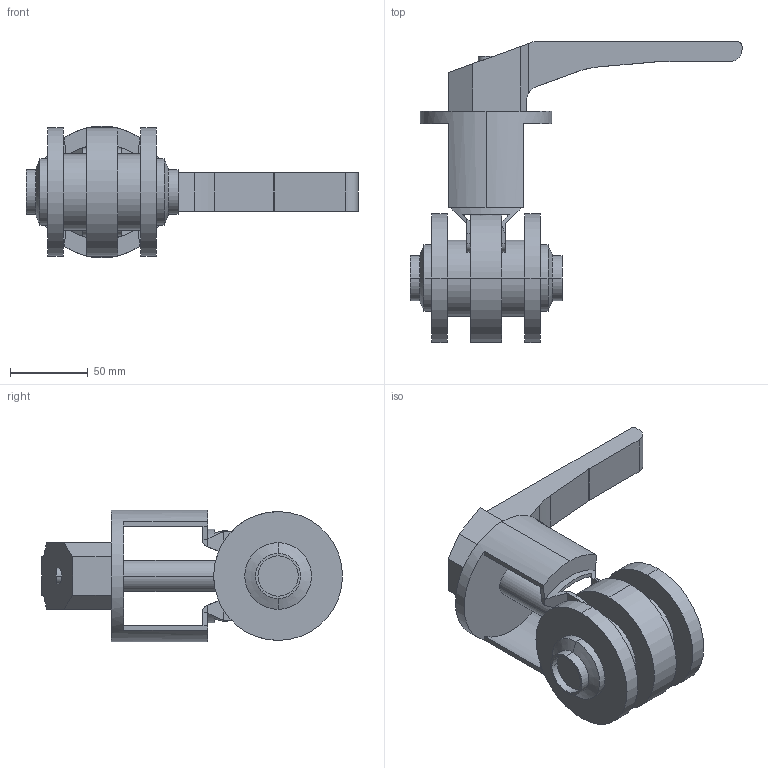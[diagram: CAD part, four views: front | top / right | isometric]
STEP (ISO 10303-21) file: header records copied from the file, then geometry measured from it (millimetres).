
FILE_DESCRIPTION(('Creo Elements/Direct Modeling STEP Export'),'2;1');
FILE_NAME('SVS1F-25-HL-12S.stp','2015-02-26T16:16:03',(''),(''),'Creo Elements/Direct Modeling STEP processor for AP214 (Solid Model)','Creo Elements/Direct Modeling 17.0D 15-Jul-2011 (C) Parametric Technology GmbH','');
FILE_SCHEMA(('AUTOMOTIVE_DESIGN { 1 0 10303 214 1 1 1 1 }'));
Length unit declared in the file: millimetre
Products named in the file (5): SVS1F-25-HL-12S; SV_Laterne_HL_25; Handhebel-SV-25-100
Assembly tree (4 placements, depth 3):
  SVS1F-25-HL-12S
    SV_Laterne_HL_25
      Handhebel-SV-25-100
      SV_Laterne_HL_25
    SVS1F-25-HL-12S
Bounding box: 214 x 194 x 85 mm (x, y, z)
Volume: 509249.2 mm3; surface area: 99971.2 mm2
Topology: 3 solids, 3 shells, 171 faces, 449 edges, 293 vertices
Faces by surface type: plane 108, cylinder 59, cone 4
Entity records: 5150 total; most frequent: ORIENTED_EDGE 898, CARTESIAN_POINT 859, DIRECTION 849, EDGE_CURVE 449, VERTEX_POINT 293, AXIS2_PLACEMENT_3D 283, VECTOR 283, LINE 283
